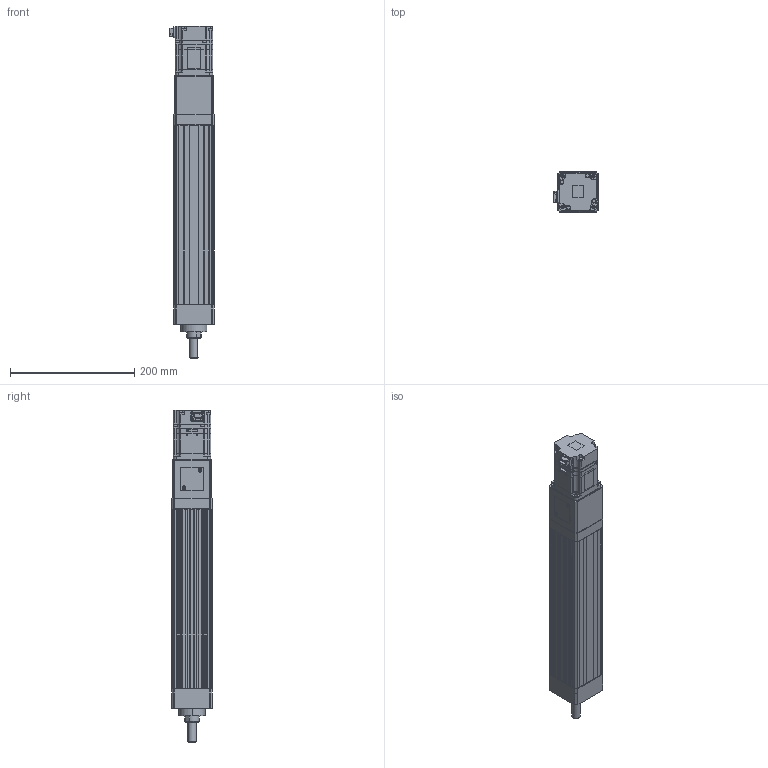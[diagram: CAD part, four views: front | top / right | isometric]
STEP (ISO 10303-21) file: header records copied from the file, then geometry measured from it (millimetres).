
FILE_DESCRIPTION (( 'STEP AP203' ), '1' );
FILE_NAME ('ANS065-S200-05(10)-W20-M.STEP', '2019-03-03T05:50:59', ( 'user' ), ( '' ), 'SwSTEP 2.0', 'SolidWorks 2013', '' );
FILE_SCHEMA (( 'CONFIG_CONTROL_DESIGN' ));
Length unit declared in the file: millimetre
Products named in the file (4): ANS065 S200 VER2; sgmjv_02a_a21; ANS065 ROD ST200-M; ANS065-S200-05(10)-W20-M
Assembly tree (3 placements, depth 2):
  ANS065-S200-05(10)-W20-M
    ANS065 S200 VER2
    sgmjv_02a_a21
    ANS065 ROD ST200-M
Bounding box: 71.3 x 65 x 534.6 mm (x, y, z)
Volume: 1271983.5 mm3; surface area: 292120.3 mm2
Topology: 3 solids, 7 shells, 1081 faces, 2861 edges, 1841 vertices
Faces by surface type: plane 637, cylinder 358, cone 86
Entity records: 33609 total; most frequent: CARTESIAN_POINT 5983, DIRECTION 5713, ORIENTED_EDGE 5674, EDGE_CURVE 2837, VECTOR 2007, LINE 2007, AXIS2_PLACEMENT_3D 1853, VERTEX_POINT 1841
